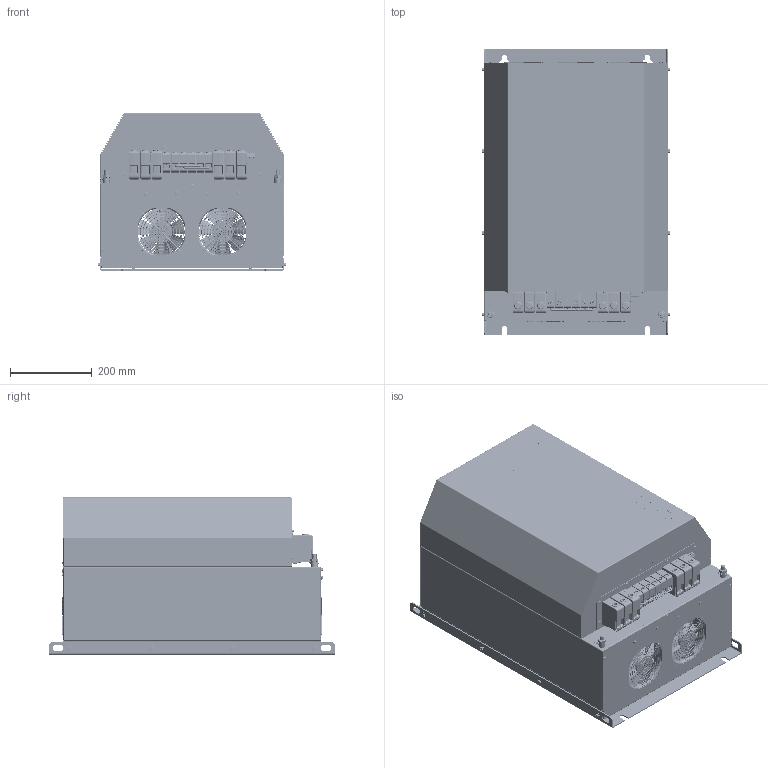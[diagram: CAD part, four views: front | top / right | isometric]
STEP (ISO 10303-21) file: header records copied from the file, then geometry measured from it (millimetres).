
FILE_DESCRIPTION(/* description */ (''),/* implementation_level */ '2;1');
FILE_NAME(/* name */ 'C:\Users\Erika.Jenzer\OneDrive - Schaffner EMV AG\Desktop\Plutus Customer STEP\CUSTOMER IP20 FS E.stp',/* time_stamp */ '2023-05-12T09:51:21+02:00',/* author */ ('erika.jenzer'),/* organization */ (''),/* preprocessor_version */ 'ST-DEVELOPER v18.1',/* originating_system */ 'Autodesk Inventor 2020',/* authorisation */ '');
FILE_SCHEMA (('AUTOMOTIVE_DESIGN { 1 0 10303 214 3 1 1 }'));
Products named in the file (1): CUSTOMER IP20 FS E
Bounding box: 459.59 x 700 x 385.15 mm (x, y, z)
Volume: 3425216.5 mm3; surface area: 3234923.4 mm2
Topology: 48 solids, 50 shells, 9413 faces, 23756 edges, 14379 vertices
Faces by surface type: plane 3714, cylinder 2485, bspline 1919, cone 563, torus 528, sphere 204
Full cylindrical faces by diameter (mm): 2 x4, 2.8 x6, 3.2 x4, 3.3 x9, 3.4 x4, 4 x106, 4.3 x24, 4.5 x1, 4.881 x6, 5.2 x4, 5.5 x38, 6 x20, 6.5 x8, 7 x8, 7.8 x3, 8 x9, 8.3 x6, 8.7 x4, 9 x8, 9.188 x2, 9.8 x1, 9.9 x2, 10 x28, 10.379 x1, 10.5 x2, 11 x2, 11.05 x4, 11.6 x6, 12 x2, 12.7 x3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
Entity records: 403501 total; most frequent: CARTESIAN_POINT 177477, ORIENTED_EDGE 47028, DIRECTION 44353, EDGE_CURVE 23514, AXIS2_PLACEMENT_3D 16521, VERTEX_POINT 14427, LINE 11311, VECTOR 11311
